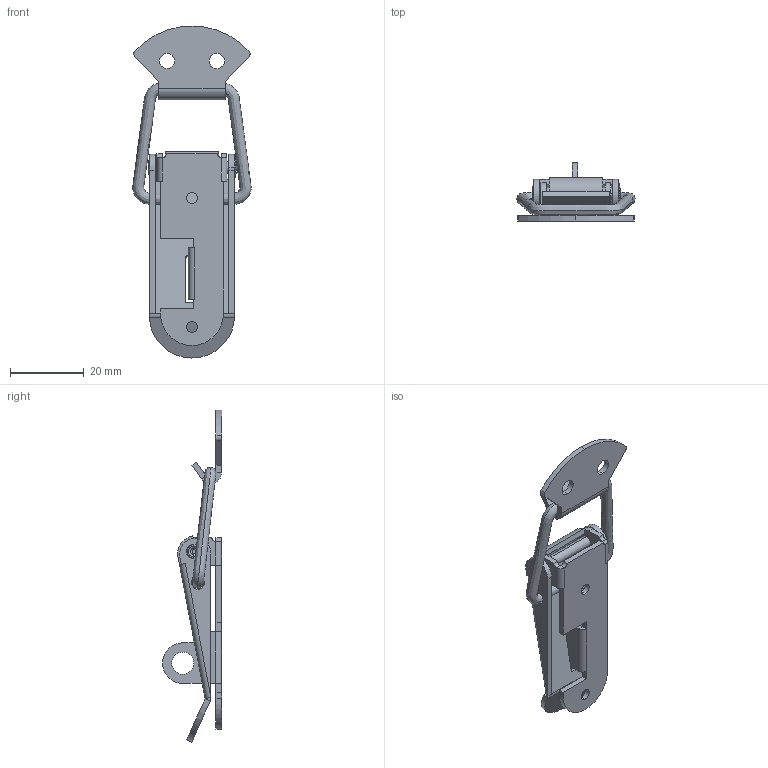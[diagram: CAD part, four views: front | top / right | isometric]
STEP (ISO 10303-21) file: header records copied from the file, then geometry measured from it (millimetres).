
FILE_DESCRIPTION (( 'STEP AP203' ), '1' );
FILE_NAME ('SK3-004.STEP', '2018-11-01T07:29:14', ( 'admin' ), ( 'Microsoft' ), 'SwSTEP 2.0', 'SolidWorks 2015', '' );
FILE_SCHEMA (( 'CONFIG_CONTROL_DESIGN' ));
Length unit declared in the file: millimetre
Products named in the file (6): SK3-004ͷ; SK3-004; SK3-004种隊; SK3-004減諶; SK3-004嘐隅; SK3-004魂雄
Assembly tree (5 placements, depth 2):
  SK3-004
    SK3-004嘐隅
    SK3-004減諶
    SK3-004魂雄
    SK3-004ͷ
    SK3-004种隊
Bounding box: 32.11 x 16 x 90.01 mm (x, y, z)
Volume: 5290 mm3; surface area: 8087.3 mm2
Topology: 5 solids, 5 shells, 170 faces, 412 edges, 255 vertices
Faces by surface type: plane 86, cylinder 72, torus 8, bspline 2, sphere 2
Entity records: 7208 total; most frequent: CARTESIAN_POINT 2425, DIRECTION 938, ORIENTED_EDGE 824, EDGE_CURVE 412, AXIS2_PLACEMENT_3D 352, VERTEX_POINT 255, VECTOR 234, LINE 234
